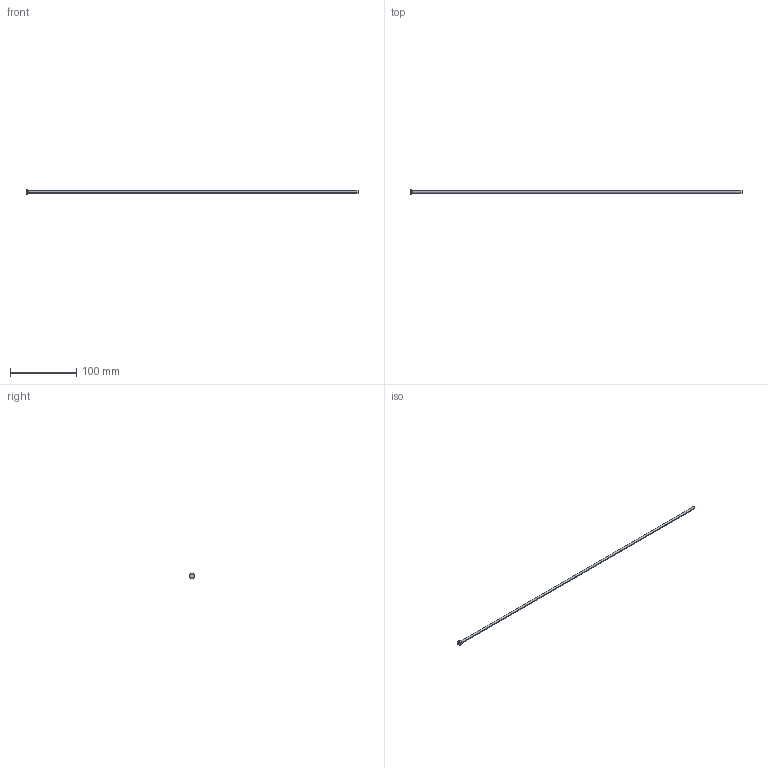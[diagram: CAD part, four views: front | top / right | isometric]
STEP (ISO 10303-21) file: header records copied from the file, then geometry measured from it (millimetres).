
FILE_DESCRIPTION (( 'STEP AP214' ), '1' );
FILE_NAME ('A-3,7x400.STEP', '2020-05-28T17:36:38', ( 'August' ), ( '' ), 'SwSTEP 2.0', 'SolidWorks 2018', '' );
FILE_SCHEMA (( 'AUTOMOTIVE_DESIGN' ));
Length unit declared in the file: millimetre
Products named in the file (1): A-3,7x400
Bounding box: 500 x 7 x 7 mm (x, y, z)
Volume: 5459.5 mm3; surface area: 5918.6 mm2
Topology: 1 solids, 1 shells, 9 faces, 16 edges, 10 vertices
Faces by surface type: cylinder 4, plane 3, torus 2
Entity records: 260 total; most frequent: DIRECTION 48, CARTESIAN_POINT 36, ORIENTED_EDGE 32, AXIS2_PLACEMENT_3D 22, EDGE_CURVE 16, CIRCLE 12, VERTEX_POINT 10, EDGE_LOOP 10
